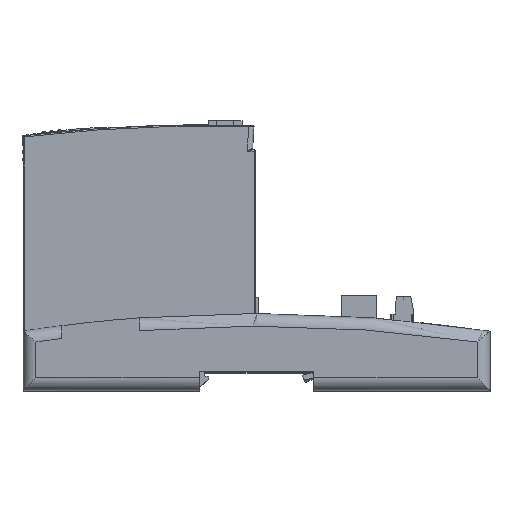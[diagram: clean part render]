
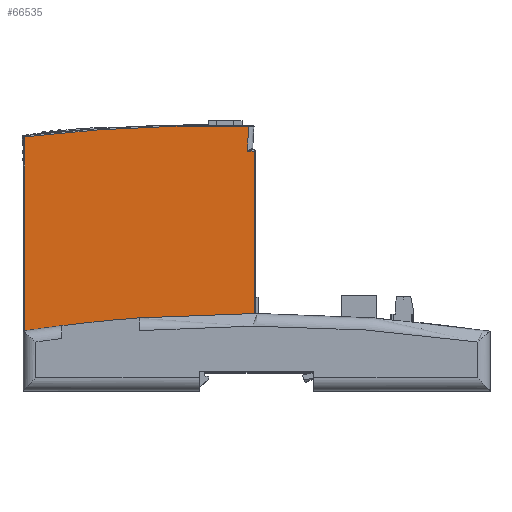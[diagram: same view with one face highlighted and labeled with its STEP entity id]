
A CAD part, top view. The second image highlights one B-rep face of the part: STEP entity #66535.
In plain terms, the highlighted planar face has unit normal (0, 0, 1).
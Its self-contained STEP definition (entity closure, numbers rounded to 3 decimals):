
#5970=DIRECTION('',(0.,1.,0.));
#5971=VECTOR('',#5970,2.4);
#5972=CARTESIAN_POINT('',(152.7,18.7,-0.2));
#5973=LINE('',#5972,#5971);
#13260=DIRECTION('',(1.,0.,0.));
#13261=VECTOR('',#13260,3.);
#13262=CARTESIAN_POINT('',(0.6,23.1,-0.203));
#13263=LINE('',#13262,#13261);
#13326=DIRECTION('',(0.,-1.,0.));
#13327=VECTOR('',#13326,74.756);
#13328=CARTESIAN_POINT('',(0.6,97.856,-0.204));
#13329=LINE('',#13328,#13327);
#13567=CARTESIAN_POINT('',(86.601,92.3,
-0.204));
#13594=DIRECTION('',(1.,0.,-0.001));
#13595=VECTOR('',#13594,3.);
#13596=CARTESIAN_POINT('',(30.6,21.1,-0.2));
#13597=LINE('',#13596,#13595);
#13598=DIRECTION('',(-1.,0.,0.));
#13599=VECTOR('',#13598,25.);
#13600=CARTESIAN_POINT('',(28.6,21.1,-0.203));
#13601=LINE('',#13600,#13599);
#13602=DIRECTION('',(0.,1.,0.));
#13603=VECTOR('',#13602,2.);
#13604=CARTESIAN_POINT('',(3.6,21.1,-0.203));
#13605=LINE('',#13604,#13603);
#13606=CARTESIAN_POINT('',(71.564,-497.429,-0.205));
#13607=DIRECTION('',(0.,0.,-1.));
#13608=DIRECTION('',(-0.118,0.993,0.));
#13609=AXIS2_PLACEMENT_3D('',#13606,#13607,#13608);
#13611=CARTESIAN_POINT('',(178.6,92.8,-0.205));
#13612=DIRECTION('',(0.,0.,1.));
#13613=DIRECTION('',(-0.995,0.099,0.));
#13614=AXIS2_PLACEMENT_3D('',#13611,#13612,#13613);
#13616=DIRECTION('',(1.,0.,0.));
#13617=VECTOR('',#13616,2.499);
#13618=CARTESIAN_POINT('',(86.601,92.3,
-0.204));
#13619=LINE('',#13618,#13617);
#13620=DIRECTION('',(0.,-1.,0.));
#13621=VECTOR('',#13620,71.2);
#13622=CARTESIAN_POINT('',(89.1,92.3,-0.204));
#13623=LINE('',#13622,#13621);
#13624=DIRECTION('',(1.,0.,0.));
#13625=VECTOR('',#13624,63.6);
#13626=CARTESIAN_POINT('',(89.1,21.1,-0.203));
#13627=LINE('',#13626,#13625);
#13628=DIRECTION('',(-1.,0.,0.));
#13629=VECTOR('',#13628,122.1);
#13630=CARTESIAN_POINT('',(152.7,18.7,-0.2));
#13631=LINE('',#13630,#13629);
#13632=DIRECTION('',(0.,1.,0.));
#13633=VECTOR('',#13632,2.4);
#13634=CARTESIAN_POINT('',(30.6,18.7,-0.2));
#13635=LINE('',#13634,#13633);
#13640=DIRECTION('',(0.,-1.,0.001));
#13641=VECTOR('',#13640,2.);
#13642=CARTESIAN_POINT('',(33.6,23.1,-0.203));
#13643=LINE('',#13642,#13641);
#13644=DIRECTION('',(1.,0.,0.));
#13645=VECTOR('',#13644,5.);
#13646=CARTESIAN_POINT('',(28.6,23.1,-0.203));
#13647=LINE('',#13646,#13645);
#13664=DIRECTION('',(0.,1.,0.));
#13665=VECTOR('',#13664,2.);
#13666=CARTESIAN_POINT('',(28.6,21.1,-0.203));
#13667=LINE('',#13666,#13665);
#39305=CARTESIAN_POINT('',(30.6,18.7,-0.2));
#39306=VERTEX_POINT('',#39305);
#39375=CARTESIAN_POINT('',(30.6,21.1,-0.2));
#39377=VERTEX_POINT('',#39375);
#39403=CARTESIAN_POINT('',(152.7,18.7,-0.2));
#39404=VERTEX_POINT('',#39403);
#39405=CARTESIAN_POINT('',(152.7,21.1,-0.2));
#39406=VERTEX_POINT('',#39405);
#41142=CARTESIAN_POINT('',(3.6,21.1,-0.203));
#41144=VERTEX_POINT('',#41142);
#41147=CARTESIAN_POINT('',(28.6,21.1,-0.203));
#41149=VERTEX_POINT('',#41147);
#41152=CARTESIAN_POINT('',(3.6,23.1,-0.203));
#41154=VERTEX_POINT('',#41152);
#42555=CARTESIAN_POINT('',(0.6,97.856,-0.205));
#42556=VERTEX_POINT('',#42555);
#42557=CARTESIAN_POINT('',(87.048,101.871,-0.205));
#42558=VERTEX_POINT('',#42557);
#42563=VERTEX_POINT('',#13567);
#42564=CARTESIAN_POINT('',(89.1,92.3,-0.205));
#42565=VERTEX_POINT('',#42564);
#42566=CARTESIAN_POINT('',(28.6,23.1,-0.203));
#42567=CARTESIAN_POINT('',(33.6,23.1,-0.203));
#42568=VERTEX_POINT('',#42566);
#42569=VERTEX_POINT('',#42567);
#42570=CARTESIAN_POINT('',(0.6,23.1,-0.203));
#42571=VERTEX_POINT('',#42570);
#47376=CARTESIAN_POINT('',(89.1,21.1,-0.205));
#47377=VERTEX_POINT('',#47376);
#47394=CARTESIAN_POINT('',(33.6,21.1,-0.202));
#47395=VERTEX_POINT('',#47394);
#66503=CARTESIAN_POINT('',(91.65,19.9,-0.2));
#66504=DIRECTION('',(0.,0.,1.));
#66505=DIRECTION('',(1.,0.,0.));
#66506=AXIS2_PLACEMENT_3D('',#66503,#66504,#66505);
#66507=PLANE('',#66506);
#66508=ORIENTED_EDGE('',*,*,#56359,.T.);
#66510=ORIENTED_EDGE('',*,*,#66509,.F.);
#66512=ORIENTED_EDGE('',*,*,#66511,.F.);
#66514=ORIENTED_EDGE('',*,*,#66513,.F.);
#66516=ORIENTED_EDGE('',*,*,#66515,.T.);
#66518=ORIENTED_EDGE('',*,*,#66517,.T.);
#66519=ORIENTED_EDGE('',*,*,#65686,.F.);
#66520=ORIENTED_EDGE('',*,*,#65724,.F.);
#66522=ORIENTED_EDGE('',*,*,#66521,.T.);
#66523=ORIENTED_EDGE('',*,*,#66494,.T.);
#66525=ORIENTED_EDGE('',*,*,#66524,.T.);
#66527=ORIENTED_EDGE('',*,*,#66526,.T.);
#66528=ORIENTED_EDGE('',*,*,#56345,.T.);
#66529=ORIENTED_EDGE('',*,*,#56331,.F.);
#66530=ORIENTED_EDGE('',*,*,#56682,.T.);
#66532=ORIENTED_EDGE('',*,*,#66531,.T.);
#66533=EDGE_LOOP('',(#66508,#66510,#66512,#66514,#66516,#66518,#66519,#66520,
#66522,#66523,#66525,#66527,#66528,#66529,#66530,#66532));
#66534=FACE_OUTER_BOUND('',#66533,.F.);
#13610=CIRCLE('',#13609,599.5);
#13615=CIRCLE('',#13614,92.);
#56331=EDGE_CURVE('',#39404,#39406,#5973,.T.);
#56345=EDGE_CURVE('',#47377,#39406,#13627,.T.);
#56359=EDGE_CURVE('',#39377,#47395,#13597,.T.);
#56682=EDGE_CURVE('',#39404,#39306,#13631,.T.);
#65686=EDGE_CURVE('',#42571,#41154,#13263,.T.);
#65724=EDGE_CURVE('',#42556,#42571,#13329,.T.);
#66494=EDGE_CURVE('',#42558,#42563,#13615,.T.);
#66509=EDGE_CURVE('',#42569,#47395,#13643,.T.);
#66511=EDGE_CURVE('',#42568,#42569,#13647,.T.);
#66513=EDGE_CURVE('',#41149,#42568,#13667,.T.);
#66515=EDGE_CURVE('',#41149,#41144,#13601,.T.);
#66517=EDGE_CURVE('',#41144,#41154,#13605,.T.);
#66521=EDGE_CURVE('',#42556,#42558,#13610,.T.);
#66524=EDGE_CURVE('',#42563,#42565,#13619,.T.);
#66526=EDGE_CURVE('',#42565,#47377,#13623,.T.);
#66531=EDGE_CURVE('',#39306,#39377,#13635,.T.);
#66535=ADVANCED_FACE('',(#66534),#66507,.T.);
